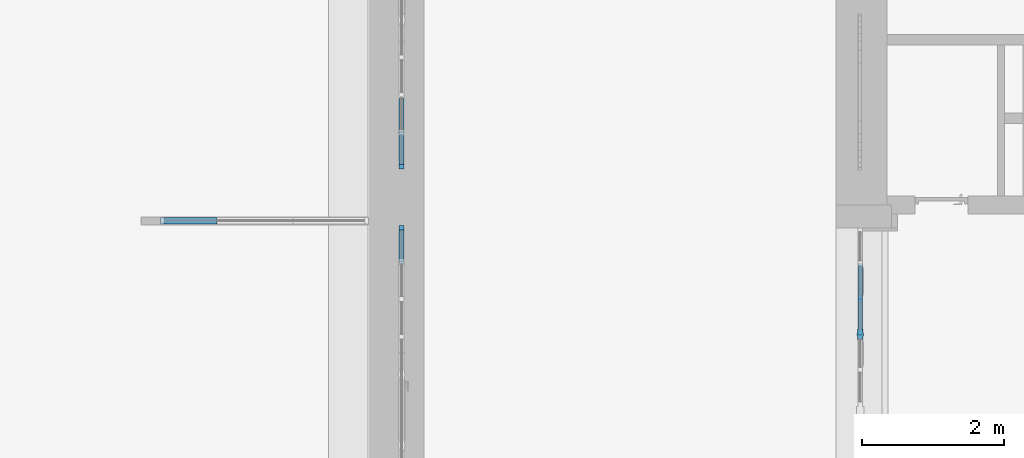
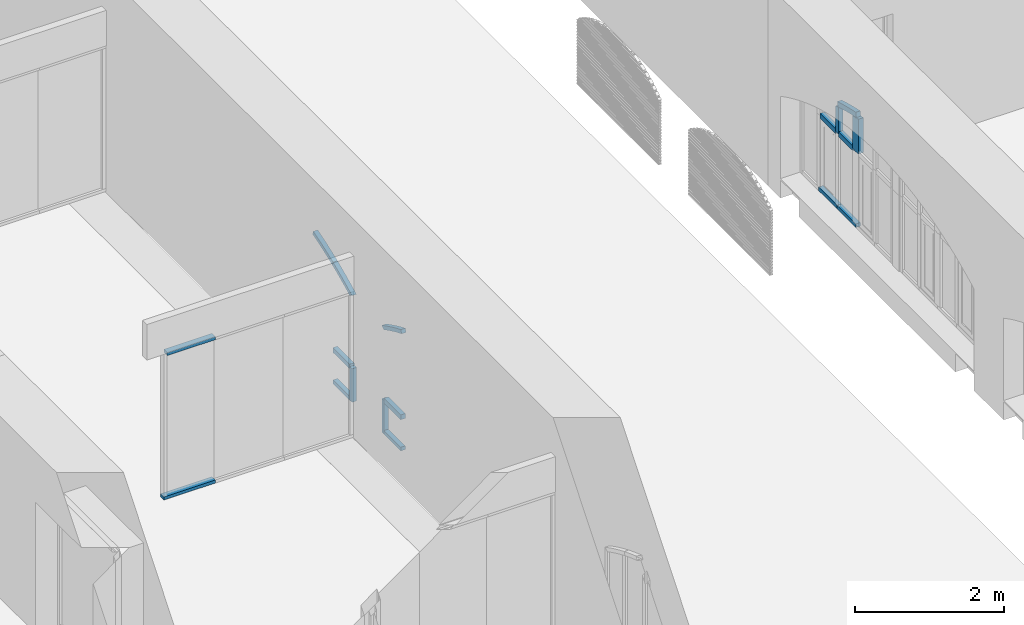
# One storey, part 31 of 88: 18 members, 4 elements without a shape of their own.
"""IFC2X3 building model written with IfcOpenShell, lengths in millimetres."""

from ifc_helpers import new_model, entity, si_unit, converted_unit, derived_unit, direction, frame, frame_2d, origin, place, context, subcontext, project, spatial, polyline, circle_curve, parameter, trimmed, segment, composite_curve, rectangle, outline, extrude, faceted_brep, source, transform, mapped, material, type_object, type_shapes, element, aggregate, save


model = new_model("IFC2X3")

# Units and contexts
model_context = context("Model", 3, precision=0.01, world=origin(), true_north=direction((6.123031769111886e-17, 1.0)))
body_context = subcontext(model_context, "Body", "Model", "MODEL_VIEW")
ifc_project = project(units=[si_unit("LENGTHUNIT", "METRE", prefix="MILLI"), si_unit("AREAUNIT", "SQUARE_METRE"), si_unit("VOLUMEUNIT", "CUBIC_METRE"), converted_unit("PLANEANGLEUNIT", "DEGREE", entity("IfcPlaneAngleMeasure", 0.017453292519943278), si_unit("PLANEANGLEUNIT", "RADIAN"), dimensions=[0, 0, 0, 0, 0, 0, 0]), si_unit("MASSUNIT", "GRAM", prefix="KILO"), derived_unit("MASSDENSITYUNIT", [(si_unit("MASSUNIT", "GRAM", prefix="KILO"), 1), (si_unit("LENGTHUNIT", "METRE"), -3)]), derived_unit("IONCONCENTRATIONUNIT", [(si_unit("MASSUNIT", "GRAM", prefix="KILO"), 1), (si_unit("LENGTHUNIT", "METRE"), -3)]), derived_unit("MOMENTOFINERTIAUNIT", [(si_unit("LENGTHUNIT", "METRE"), 4)]), si_unit("TIMEUNIT", "SECOND"), si_unit("FREQUENCYUNIT", "HERTZ"), si_unit("THERMODYNAMICTEMPERATUREUNIT", "DEGREE_CELSIUS"), derived_unit("THERMALTRANSMITTANCEUNIT", [(si_unit("MASSUNIT", "GRAM", prefix="KILO"), 1), (si_unit("THERMODYNAMICTEMPERATUREUNIT", "KELVIN"), -1), (si_unit("TIMEUNIT", "SECOND"), -3)]), derived_unit("THERMALCONDUCTANCEUNIT", [(si_unit("MASSUNIT", "GRAM", prefix="KILO"), 1), (si_unit("THERMODYNAMICTEMPERATUREUNIT", "KELVIN"), -1), (si_unit("TIMEUNIT", "SECOND"), -3), (si_unit("LENGTHUNIT", "METRE"), 1)]), derived_unit("VOLUMETRICFLOWRATEUNIT", [(si_unit("LENGTHUNIT", "METRE", prefix="DECI"), 3), (si_unit("TIMEUNIT", "SECOND"), -1)]), derived_unit("MASSFLOWRATEUNIT", [(si_unit("MASSUNIT", "GRAM", prefix="KILO"), 1), (si_unit("TIMEUNIT", "SECOND"), -1)]), derived_unit("ROTATIONALFREQUENCYUNIT", [(si_unit("TIMEUNIT", "SECOND"), -1)]), si_unit("ELECTRICCURRENTUNIT", "AMPERE"), si_unit("ELECTRICVOLTAGEUNIT", "VOLT"), si_unit("POWERUNIT", "WATT"), si_unit("FORCEUNIT", "NEWTON", prefix="KILO"), si_unit("ILLUMINANCEUNIT", "LUX"), si_unit("LUMINOUSFLUXUNIT", "LUMEN"), si_unit("LUMINOUSINTENSITYUNIT", "CANDELA"), si_unit("ENERGYUNIT", "JOULE"), derived_unit("USERDEFINED", [(si_unit("MASSUNIT", "GRAM", prefix="KILO"), -1), (si_unit("LENGTHUNIT", "METRE"), -2), (si_unit("TIMEUNIT", "SECOND"), 3), (si_unit("LUMINOUSFLUXUNIT", "LUMEN"), 1)]), derived_unit("USERDEFINED", [(si_unit("MASSUNIT", "GRAM", prefix="KILO"), 1), (si_unit("TIMEUNIT", "SECOND"), -3), (si_unit("LENGTHUNIT", "METRE"), 3), (si_unit("ELECTRICCURRENTUNIT", "AMPERE"), -2)]), derived_unit("SOUNDPOWERUNIT", [(si_unit("MASSUNIT", "GRAM", prefix="KILO"), 1), (si_unit("TIMEUNIT", "SECOND"), -3), (si_unit("LENGTHUNIT", "METRE"), 2)]), derived_unit("SOUNDPRESSUREUNIT", [(si_unit("MASSUNIT", "GRAM", prefix="KILO"), 1), (si_unit("LENGTHUNIT", "METRE"), -1), (si_unit("TIMEUNIT", "SECOND"), -2)]), derived_unit("LINEARVELOCITYUNIT", [(si_unit("LENGTHUNIT", "METRE"), 1), (si_unit("TIMEUNIT", "SECOND"), -1)]), si_unit("PRESSUREUNIT", "PASCAL"), derived_unit("USERDEFINED", [(si_unit("MASSUNIT", "GRAM", prefix="KILO"), 1), (si_unit("LENGTHUNIT", "METRE"), -2), (si_unit("TIMEUNIT", "SECOND"), -2)]), derived_unit("LINEARFORCEUNIT", [(si_unit("MASSUNIT", "GRAM", prefix="KILO"), 1), (si_unit("TIMEUNIT", "SECOND"), -2)]), derived_unit("PLANARFORCEUNIT", [(si_unit("MASSUNIT", "GRAM", prefix="KILO"), 1), (si_unit("LENGTHUNIT", "METRE"), -1), (si_unit("TIMEUNIT", "SECOND"), -2)]), derived_unit("SPECIFICHEATCAPACITYUNIT", [(si_unit("THERMODYNAMICTEMPERATUREUNIT", "KELVIN"), -1), (si_unit("LENGTHUNIT", "METRE"), 2), (si_unit("TIMEUNIT", "SECOND"), -2)]), derived_unit("HEATFLUXDENSITYUNIT", [(si_unit("MASSUNIT", "GRAM", prefix="KILO"), 1), (si_unit("TIMEUNIT", "SECOND"), -3)]), derived_unit("HEATINGVALUEUNIT", [(si_unit("LENGTHUNIT", "METRE"), 2), (si_unit("TIMEUNIT", "SECOND"), -2)]), derived_unit("VAPORPERMEABILITYUNIT", [(si_unit("LENGTHUNIT", "METRE"), -1), (si_unit("TIMEUNIT", "SECOND"), 1)]), derived_unit("DYNAMICVISCOSITYUNIT", [(si_unit("MASSUNIT", "GRAM", prefix="KILO"), 1), (si_unit("TIMEUNIT", "SECOND"), -1), (si_unit("LENGTHUNIT", "METRE"), -1)]), derived_unit("THERMALEXPANSIONCOEFFICIENTUNIT", [(si_unit("THERMODYNAMICTEMPERATUREUNIT", "KELVIN"), -1)]), derived_unit("MODULUSOFELASTICITYUNIT", [(si_unit("MASSUNIT", "GRAM", prefix="KILO"), 1), (si_unit("LENGTHUNIT", "METRE"), -1), (si_unit("TIMEUNIT", "SECOND"), -2)]), derived_unit("ISOTHERMALMOISTURECAPACITYUNIT", [(si_unit("MASSUNIT", "GRAM", prefix="KILO"), -1), (si_unit("LENGTHUNIT", "METRE"), 3)]), derived_unit("MOISTUREDIFFUSIVITYUNIT", [(si_unit("TIMEUNIT", "SECOND"), -1), (si_unit("LENGTHUNIT", "METRE"), 2)]), derived_unit("MASSPERLENGTHUNIT", [(si_unit("MASSUNIT", "GRAM", prefix="KILO"), 1), (si_unit("LENGTHUNIT", "METRE"), -1)]), derived_unit("THERMALRESISTANCEUNIT", [(si_unit("MASSUNIT", "GRAM", prefix="KILO"), -1), (si_unit("TIMEUNIT", "SECOND"), 3), (si_unit("THERMODYNAMICTEMPERATUREUNIT", "KELVIN"), 1)]), derived_unit("ACCELERATIONUNIT", [(si_unit("LENGTHUNIT", "METRE"), 1), (si_unit("TIMEUNIT", "SECOND"), -2)]), derived_unit("ANGULARVELOCITYUNIT", [(si_unit("TIMEUNIT", "SECOND"), -1), (si_unit("PLANEANGLEUNIT", "RADIAN"), 1)]), derived_unit("LINEARSTIFFNESSUNIT", [(si_unit("MASSUNIT", "GRAM", prefix="KILO"), 1), (si_unit("TIMEUNIT", "SECOND"), -2)]), derived_unit("WARPINGCONSTANTUNIT", [(si_unit("LENGTHUNIT", "METRE"), 6)]), derived_unit("LINEARMOMENTUNIT", [(si_unit("MASSUNIT", "GRAM", prefix="KILO"), 1), (si_unit("LENGTHUNIT", "METRE"), 1), (si_unit("TIMEUNIT", "SECOND"), -2)]), derived_unit("TORQUEUNIT", [(si_unit("MASSUNIT", "GRAM", prefix="KILO"), 1), (si_unit("LENGTHUNIT", "METRE"), 2), (si_unit("TIMEUNIT", "SECOND"), -2)])], contexts=[model_context])

# Site, building, storey
site_placement = place(None, origin())
site = spatial("IfcSite", under=ifc_project, at=site_placement, Name="Default", CompositionType="ELEMENT")
building_placement = place(site_placement, origin())
building = spatial("IfcBuilding", under=site, at=building_placement, Name="Eesti Rahvusraamatukogu hoone renoveerimise projekteerimistööd", CompositionType="ELEMENT")
storey_placement = place(building_placement, origin())
storey = spatial("IfcBuildingStorey", under=building, at=storey_placement, Name="1. korrus", CompositionType="ELEMENT", Elevation=0.0)

# Curtain wall, members
curtain_wall_type_1 = type_object("IfcCurtainWallType", Name="Curtain Wall:VLS Klaasvahesein profiilita 38db", PredefinedType="NOTDEFINED")
curtain_wall_1_placement = place(storey_placement, origin())
curtain_wall_1 = element("IfcCurtainWall", 1, at=curtain_wall_1_placement, inside=storey, type_object=curtain_wall_type_1, Name="Curtain Wall:VLS Klaasvahesein profiilita 38db", ObjectType="Curtain Wall:VLS Klaasvahesein profiilita 38db")
ifc_material_1 = material(Name="Aluminum")
member_type_1 = type_object("IfcMemberType", Name="Rectangular Mullion:50mm x 92mm", PredefinedType="MULLION", material=ifc_material_1)
shared_shape_1 = source(origin(), body_context, "Body", "SweptSolid", [
    extrude(rectangle(XDim=50.0, YDim=92.0, at=frame_2d((0.0, 3.552713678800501e-15), x_axis=(1.0, 0.0))), frame((-25.0, 0.0, -745.0000001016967), z_axis=(0.0, 0.0, 1.0), x_axis=(-1.0, 0.0, 0.0)), (0.0, 0.0, 1.0), 745.0000001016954),
])
type_shapes(member_type_1, [shared_shape_1])
member_1_placement = place(curtain_wall_1_placement, frame((-46255.0, 24092.0, 2400.0), z_axis=(-1.0, 0.0, 0.0), x_axis=(0.0, 0.0, 1.0)))
member_1 = element("IfcMember", 2, at=member_1_placement, type_object=member_type_1, material=ifc_material_1, Name="Rectangular Mullion:50mm x 92mm", ObjectType="Rectangular Mullion:50mm x 92mm", context=body_context, shape_type="MappedRepresentation", body=[
    mapped(shared_shape_1, transform((0.0, 0.0, 0.0), scale=1.0)),
])
member_type_2 = type_object("IfcMemberType", Name="Rectangular Mullion:50mm x 92mm", PredefinedType="MULLION", material=ifc_material_1)
shared_shape_2 = source(origin(), body_context, "Body", "SweptSolid", [
    extrude(rectangle(XDim=50.0, YDim=92.0, at=frame_2d((0.0, 3.552713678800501e-15), x_axis=(1.0, 0.0))), frame((-25.0, 0.0, -795.0000001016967), z_axis=(0.0, 0.0, 1.0), x_axis=(-1.0, 0.0, 0.0)), (0.0, 0.0, 1.0), 795.0000001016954),
])
type_shapes(member_type_2, [shared_shape_2])
member_2_placement = place(curtain_wall_1_placement, frame((-45509.99999989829, 24092.0, 0.0), z_axis=(1.0, 0.0, 0.0), x_axis=(0.0, 0.0, -1.0)))
member_2 = element("IfcMember", 3, at=member_2_placement, type_object=member_type_2, material=ifc_material_1, Name="Rectangular Mullion:50mm x 92mm", ObjectType="Rectangular Mullion:50mm x 92mm", context=body_context, shape_type="MappedRepresentation", body=[
    mapped(shared_shape_2, transform((0.0, 0.0, 0.0), scale=1.0)),
])
aggregate(curtain_wall_1, [member_1, member_2])

curtain_wall_type_2 = type_object("IfcCurtainWallType", Name="Curtain Wall:Ak-02", PredefinedType="NOTDEFINED")
curtain_wall_2_placement = place(storey_placement, origin())
curtain_wall_2 = element("IfcCurtainWall", 4, at=curtain_wall_2_placement, inside=storey, type_object=curtain_wall_type_2, Name="Curtain Wall:Ak-02", ObjectType="Curtain Wall:Ak-02")
ifc_material_2 = material(Name="LUMION_dark steel window frames")
member_type_3 = type_object("IfcMemberType", Name="Rectangular Mullion:NEW 80x70mm", PredefinedType="MULLION", material=ifc_material_2)
shared_shape_3 = source(origin(), body_context, "Body", "SweptSolid", [
    extrude(outline(composite_curve([segment(polyline([(-51.955427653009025, -255.69780513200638), (28.04457234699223, -255.69780513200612)]), True, "CONTINUOUS"), segment(trimmed(circle_curve(frame_2d((5468.760252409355, -255.69780513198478), x_axis=(-0.9956372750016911, 0.09330818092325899)), 5440.715680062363), [parameter(3.5622212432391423e-13)], [parameter(5.353953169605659)], True, "PARAMETER"), False, "CONTINUOUS"), segment(polyline([(51.78091865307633, 251.96547789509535), (-27.870063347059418, 259.4301323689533)]), True, "CONTINUOUS"), segment(trimmed(circle_curve(frame_2d((5468.760252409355, -255.69780513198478), x_axis=(-0.9956372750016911, 0.09330818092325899)), 5520.715680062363), [parameter(3.5622212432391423e-13)], [parameter(5.353953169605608)], True, "PARAMETER"), True, "CONTINUOUS")], self_intersect=False)), frame((-51.95542765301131, -35.0, -255.69780513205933), z_axis=(0.0, 1.0, 0.0), x_axis=(-0.9956372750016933, 0.0, 0.09330818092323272)), (0.0, 0.0, 1.0), 70.00000000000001),
])
type_shapes(member_type_3, [shared_shape_3])
member_3_placement = place(curtain_wall_2_placement, frame((-36440.0, 22490.0, 3859.874732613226), z_axis=(0.0, -0.9799487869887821, 0.19924952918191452), x_axis=(0.0, 0.19924952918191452, 0.9799487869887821)))
member_3 = element("IfcMember", 5, at=member_3_placement, type_object=member_type_3, material=ifc_material_2, Name="Rectangular Mullion:NEW 80x70mm", ObjectType="Rectangular Mullion:NEW 80x70mm", context=body_context, shape_type="MappedRepresentation", body=[
    mapped(shared_shape_3, transform((0.0, 0.0, 0.0), scale=1.0)),
])
member_type_4 = type_object("IfcMemberType", Name="Rectangular Mullion:NEW 80x70mm", PredefinedType="MULLION", material=ifc_material_2)
shared_shape_4 = source(origin(), body_context, "Body", "SweptSolid", [
    extrude(outline(composite_curve([segment(polyline([(-259.34177632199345, -35.36292004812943), (182.78706183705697, -35.36292004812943)]), True, "CONTINUOUS"), segment(trimmed(circle_curve(frame_2d((-5029.485677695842, -1595.3629200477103), x_axis=(0.9799487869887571, 0.19924952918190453)), 5440.715680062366), [parameter(5.169029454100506)], [parameter(5.353953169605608)], True, "PARAMETER"), True, "CONTINUOUS"), segment(trimmed(circle_curve(frame_2d((-5029.48567769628, -1595.362920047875), x_axis=(0.9570819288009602, 0.2898174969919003)), 5440.715680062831), [parameter(0.0)], [parameter(0.6965383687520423)], True, "PARAMETER"), True, "CONTINUOUS"), segment(polyline([(158.17151137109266, 44.63707995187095), (-259.34177632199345, 44.63707995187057)]), True, "CONTINUOUS"), segment(polyline([(-259.34177632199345, 44.63707995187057), (-259.34177632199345, -35.36292004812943)]), True, "CONTINUOUS")], self_intersect=False)), frame((4.637079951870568, -35.0, -259.34177632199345), z_axis=(0.0, 1.0, 0.0), x_axis=(0.0, 0.0, -1.0)), (0.0, 0.0, 1.0), 70.00000000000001),
])
type_shapes(member_type_4, [shared_shape_4])
member_4_placement = place(curtain_wall_2_placement, frame((-36440.0, 22990.0, 3220.0), z_axis=(0.0, 0.0, -1.0), x_axis=(0.0, -1.0, 0.0)))
member_4 = element("IfcMember", 6, at=member_4_placement, type_object=member_type_4, material=ifc_material_2, Name="Rectangular Mullion:NEW 80x70mm", ObjectType="Rectangular Mullion:NEW 80x70mm", context=body_context, shape_type="MappedRepresentation", body=[
    mapped(shared_shape_4, transform((0.0, 0.0, 0.0), scale=1.0)),
])
member_type_5 = type_object("IfcMemberType", Name="Rectangular Mullion:NEW 150x90mm", PredefinedType="MULLION", material=ifc_material_2)
shared_shape_5 = source(origin(), body_context, "Body", "Brep", [
    faceted_brep([(-20.0, -40.0, 0.0), (-20.0, -45.0, 0.0), (20.0, -45.0, 0.0), (20.0, -40.0, 0.0), (75.0, -40.0, 0.0), (75.0, 40.0, 0.0), (20.0, 40.0, 0.0), (20.0, 45.0, 0.0), (-20.0, 45.0, 0.0), (-20.0, 40.0, 0.0), (-75.0, 40.0, 0.0), (-75.0, -40.0, 0.0), (-20.0, 40.0, -554.0449674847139), (-47.51534075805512, 40.0, -548.1824945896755), (-75.0, 40.0, -542.1778237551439), (75.0, 40.0, -573.1474168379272), (47.48603249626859, 40.0, -567.7959127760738), (20.0, 40.0, -562.3027332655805), (-75.0, -40.0, -542.1778237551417), (-47.515340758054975, -40.0, -548.1824945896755), (-20.0, -40.0, -554.0449674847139), (20.0, -40.0, -562.30273326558), (47.48603249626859, -40.0, -567.7959127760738), (75.0, -40.0, -573.1474168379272), (-20.0, -45.0, -554.0449674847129), (-20.0, 45.0, -554.0449674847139), (-2.036281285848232, -45.0, -557.7922042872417), (15.939962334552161, -45.0, -561.4788296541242), (17.969902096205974, -45.0, -561.8911677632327), (20.0, -45.0, -562.3027332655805), (20.0, 45.0, -562.30273326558), (17.969902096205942, 45.0, -561.8911677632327), (15.939962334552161, 45.0, -561.4788296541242), (-2.036281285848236, 45.0, -557.7922042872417), (15.939962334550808, 33.74999999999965, -561.4788296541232), (15.939962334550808, 22.499999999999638, -561.4788296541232), (15.939962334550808, 0.0, -561.4788296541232), (15.939962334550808, -22.500000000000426, -561.4788296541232), (15.939962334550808, -33.75000000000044, -561.4788296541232)], [[[0, 1, 2, 3, 4, 5, 6, 7, 8, 9, 10, 11]], [[10, 9, 12, 13, 14]], [[6, 5, 15, 16, 17]], [[11, 10, 14, 18]], [[0, 11, 18, 19, 20]], [[4, 3, 21, 22, 23]], [[1, 0, 20, 24]], [[9, 8, 25, 12]], [[1, 24, 26, 27, 28, 29, 2]], [[3, 2, 29, 21]], [[7, 6, 17, 30]], [[5, 4, 23, 15]], [[7, 30, 31, 32, 33, 25, 8]], [[26, 33, 32, 34, 35, 36, 37, 38, 27]], [[20, 12, 25, 33, 26, 24]], [[20, 19, 13, 12]], [[19, 18, 14, 13]], [[15, 23, 22, 16]], [[17, 35, 34, 32]], [[21, 27, 38, 37]], [[16, 35, 17]], [[21, 37, 22]], [[36, 35, 16, 22, 37]], [[27, 21, 28]], [[31, 30, 17]], [[28, 21, 29]], [[17, 32, 31]]]),
])
type_shapes(member_type_5, [shared_shape_5])
member_5_placement = place(curtain_wall_2_placement, frame((-36440.0, 22490.0, 3220.0), z_axis=(0.0, 0.0, -1.0), x_axis=(0.0, -1.0, 0.0)))
member_5 = element("IfcMember", 7, at=member_5_placement, type_object=member_type_5, material=ifc_material_2, Name="Rectangular Mullion:NEW 150x90mm", ObjectType="Rectangular Mullion:NEW 150x90mm", context=body_context, shape_type="MappedRepresentation", body=[
    mapped(shared_shape_5, transform((0.0, 0.0, 0.0), scale=1.0)),
])
member_type_6 = type_object("IfcMemberType", Name="Rectangular Mullion:NEW 80x70mm", PredefinedType="MULLION", material=ifc_material_2)
shared_shape_6 = source(origin(), body_context, "Body", "SweptSolid", [
    extrude(rectangle(XDim=80.0, YDim=70.0, at=frame_2d((0.0, -3.552713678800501e-15), x_axis=(1.0, 0.0))), frame((0.0, 0.0, -420.0), z_axis=(0.0, 0.0, 1.0), x_axis=(-1.0, 0.0, 0.0)), (0.0, 0.0, 1.0), 419.999999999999),
])
type_shapes(member_type_6, [shared_shape_6])
member_6_placement = place(curtain_wall_2_placement, frame((-36440.0, 23030.0, 3220.0), z_axis=(0.0, -1.0, 0.0), x_axis=(0.0, 0.0, 1.0)))
member_6 = element("IfcMember", 8, at=member_6_placement, type_object=member_type_6, material=ifc_material_2, Name="Rectangular Mullion:NEW 80x70mm", ObjectType="Rectangular Mullion:NEW 80x70mm", context=body_context, shape_type="MappedRepresentation", body=[
    mapped(shared_shape_6, transform((0.0, 0.0, 0.0), scale=1.0)),
])
member_type_7 = type_object("IfcMemberType", Name="Rectangular Mullion:NEW 80x70mm", PredefinedType="MULLION", material=ifc_material_2)
shared_shape_7 = source(origin(), body_context, "Body", "SweptSolid", [
    extrude(rectangle(XDim=80.0, YDim=70.0, at=frame_2d((0.0, -3.552713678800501e-15), x_axis=(1.0, 0.0))), frame((0.0, 0.0, -385.0), z_axis=(0.0, 0.0, 1.0), x_axis=(-1.0, 0.0, 0.0)), (0.0, 0.0, 1.0), 384.99999999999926),
])
type_shapes(member_type_7, [shared_shape_7])
member_7_placement = place(curtain_wall_2_placement, frame((-36440.0, 22565.0, 3220.0), z_axis=(0.0, -1.0, 0.0), x_axis=(0.0, 0.0, 1.0)))
member_7 = element("IfcMember", 9, at=member_7_placement, type_object=member_type_7, material=ifc_material_2, Name="Rectangular Mullion:NEW 80x70mm", ObjectType="Rectangular Mullion:NEW 80x70mm", context=body_context, shape_type="MappedRepresentation", body=[
    mapped(shared_shape_7, transform((0.0, 0.0, 0.0), scale=1.0)),
])
member_type_8 = type_object("IfcMemberType", Name="Rectangular Mullion:NEW 60x70mm", PredefinedType="MULLION", material=ifc_material_2)
shared_shape_8 = source(origin(), body_context, "Body", "SweptSolid", [
    extrude(rectangle(XDim=60.0, YDim=70.0, at=frame_2d((0.0, 3.552713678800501e-15), x_axis=(1.0, 0.0))), frame((-30.0, 0.0, -500.0), z_axis=(0.0, 0.0, 1.0), x_axis=(-1.0, 0.0, 0.0)), (0.0, 0.0, 1.0), 499.999999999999),
])
type_shapes(member_type_8, [shared_shape_8])
member_8_placement = place(curtain_wall_2_placement, frame((-36440.0, 23490.0, 1970.0), z_axis=(0.0, 1.0, 0.0), x_axis=(0.0, 0.0, -1.0)))
member_8 = element("IfcMember", 10, at=member_8_placement, type_object=member_type_8, material=ifc_material_2, Name="Rectangular Mullion:NEW 60x70mm", ObjectType="Rectangular Mullion:NEW 60x70mm", context=body_context, shape_type="MappedRepresentation", body=[
    mapped(shared_shape_8, transform((0.0, 0.0, 0.0), scale=1.0)),
])
member_9_placement = place(curtain_wall_2_placement, frame((-36440.0, 22990.0, 1970.0), z_axis=(0.0, 1.0, 0.0), x_axis=(0.0, 0.0, -1.0)))
member_9 = element("IfcMember", 11, at=member_9_placement, type_object=member_type_8, material=ifc_material_2, Name="Rectangular Mullion:NEW 60x70mm", ObjectType="Rectangular Mullion:NEW 60x70mm", context=body_context, shape_type="MappedRepresentation", body=[
    mapped(shared_shape_8, transform((0.0, 0.0, 0.0), scale=1.0)),
])
aggregate(curtain_wall_2, [member_3, member_4, member_5, member_6, member_7, member_8, member_9])

# Curtain wall, member
curtain_wall_type_3 = type_object("IfcCurtainWallType", Name="Curtain Wall:Ak-05", PredefinedType="NOTDEFINED")
curtain_wall_3_placement = place(storey_placement, origin())
curtain_wall_3 = element("IfcCurtainWall", 12, at=curtain_wall_3_placement, inside=storey, type_object=curtain_wall_type_3, Name="Curtain Wall:Ak-05", ObjectType="Curtain Wall:Ak-05")
member_type_9 = type_object("IfcMemberType", Name="Rectangular Mullion:NEW 60x70mm", PredefinedType="MULLION", material=ifc_material_2)
shared_shape_9 = source(origin(), body_context, "Body", "SweptSolid", [
    extrude(outline(composite_curve([segment(polyline([(-44.19959331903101, -278.92780712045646), (15.800406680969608, -278.9278071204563)]), True, "CONTINUOUS"), segment(trimmed(circle_curve(frame_2d((5479.080973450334, -278.9278071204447), x_axis=(-0.9948301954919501, 0.10155236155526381)), 5463.280566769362), [parameter(3.5622212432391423e-13)], [parameter(5.828569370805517)], True, "PARAMETER"), False, "CONTINUOUS"), segment(polyline([(44.04449918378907, 275.8812362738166), (-15.645312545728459, 281.97437796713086)]), True, "CONTINUOUS"), segment(trimmed(circle_curve(frame_2d((5479.080973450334, -278.9278071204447), x_axis=(-0.9948301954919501, 0.10155236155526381)), 5523.280566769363), [parameter(3.5622212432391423e-13)], [parameter(5.828569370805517)], True, "PARAMETER"), True, "CONTINUOUS")], self_intersect=False)), frame((-44.19959331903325, -35.0, -278.9278071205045), z_axis=(0.0, 1.0, 0.0), x_axis=(-0.9948301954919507, 0.0, 0.10155236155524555)), (0.0, 0.0, 1.0), 69.99999999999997),
])
type_shapes(member_type_9, [shared_shape_9])
member_10_placement = place(curtain_wall_3_placement, frame((-42905.0, 25335.0, 1939.3047106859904), z_axis=(0.0, -0.9256428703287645, -0.3783983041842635), x_axis=(0.0, -0.3783983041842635, 0.9256428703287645)))
member_10 = element("IfcMember", 13, at=member_10_placement, type_object=member_type_9, material=ifc_material_2, Name="Rectangular Mullion:NEW 60x70mm", ObjectType="Rectangular Mullion:NEW 60x70mm", context=body_context, shape_type="MappedRepresentation", body=[
    mapped(shared_shape_9, transform((0.0, 0.0, 0.0), scale=1.0)),
])

curtain_wall_4_placement = place(storey_placement, origin())
curtain_wall_4 = element("IfcCurtainWall", 14, at=curtain_wall_4_placement, inside=storey, type_object=curtain_wall_type_3, Name="Curtain Wall:Ak-05", ObjectType="Curtain Wall:Ak-05")
member_type_10 = type_object("IfcMemberType", Name="Rectangular Mullion:NEW 60x70mm", PredefinedType="MULLION", material=ifc_material_2)
shared_shape_10 = source(origin(), body_context, "Body", "SweptSolid", [
    extrude(outline(composite_curve([segment(trimmed(circle_curve(frame_2d((4549.812785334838, 3066.2072493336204), x_axis=(-0.8006634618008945, -0.5991143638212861)), 5523.280566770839), [parameter(354.15250498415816)], [parameter(359.99999999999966)], True, "PARAMETER"), True, "CONTINUOUS"), segment(polyline([(127.52384624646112, -242.86947363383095), (175.56365395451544, -206.92261180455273)]), True, "CONTINUOUS"), segment(trimmed(circle_curve(frame_2d((4549.812785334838, 3066.2072493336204), x_axis=(-0.8006634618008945, -0.5991143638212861)), 5463.280566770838), [parameter(354.53073311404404)], [parameter(359.99999999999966)], True, "PARAMETER"), False, "CONTINUOUS"), segment(polyline([(-116.49037438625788, 224.89604271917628), (-186.59712581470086, 224.89604271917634)]), True, "CONTINUOUS")], self_intersect=False)), frame((-43.402905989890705, -35.0, -270.85808154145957), z_axis=(0.0, -1.0, 0.0), x_axis=(-0.800663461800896, 0.0, 0.5991143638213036)), (0.0, 0.0, -1.0), 69.99999999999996),
])
type_shapes(member_type_10, [shared_shape_10])
member_11_placement = place(curtain_wall_4_placement, frame((-42905.0, 23515.0, 1939.3047106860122), z_axis=(0.0, -0.9256428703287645, 0.3783983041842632), x_axis=(0.0, 0.3783983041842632, 0.9256428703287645)))
member_11 = element("IfcMember", 15, at=member_11_placement, type_object=member_type_10, material=ifc_material_2, Name="Rectangular Mullion:NEW 60x70mm", ObjectType="Rectangular Mullion:NEW 60x70mm", context=body_context, shape_type="MappedRepresentation", body=[
    mapped(shared_shape_10, transform((0.0, 0.0, 0.0), scale=1.0)),
])

# Member
member_type_11 = type_object("IfcMemberType", Name="Rectangular Mullion:NEW 60x70mm", PredefinedType="MULLION", material=ifc_material_2)
shared_shape_11 = source(origin(), body_context, "Body", "SweptSolid", [
    extrude(outline(composite_curve([segment(polyline([(-43.402905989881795, -270.8580815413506), (16.59709401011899, -270.85808154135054)]), True, "CONTINUOUS"), segment(trimmed(circle_curve(frame_2d((5479.877660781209, -270.8580815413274), x_axis=(-0.9947965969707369, 0.10188096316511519)), 5463.280566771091), [parameter(0.37822812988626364)], [parameter(5.847495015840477)], True, "PARAMETER"), False, "CONTINUOUS"), segment(polyline([(41.46886313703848, 249.85710065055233), (-14.66305115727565, 291.85906243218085)]), True, "CONTINUOUS"), segment(trimmed(circle_curve(frame_2d((5479.877660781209, -270.8580815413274), x_axis=(-0.9947965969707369, 0.10188096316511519)), 5523.280566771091), [parameter(3.5622212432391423e-13)], [parameter(5.847495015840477)], True, "PARAMETER"), True, "CONTINUOUS")], self_intersect=False)), frame((-44.32163578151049, -35.0, -288.84651632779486), z_axis=(0.0, 1.0, 0.0), x_axis=(-0.9947965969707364, 0.0, 0.10188096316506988)), (0.0, 0.0, 1.0), 69.99999999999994),
])
type_shapes(member_type_11, [shared_shape_11])
member_12_placement = place(curtain_wall_3_placement, frame((-42905.0, 24825.0, 1699.7706559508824), z_axis=(0.0, -0.8822747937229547, -0.4707347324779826), x_axis=(0.0, -0.4707347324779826, 0.8822747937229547)))
member_12 = element("IfcMember", 16, at=member_12_placement, type_object=member_type_11, material=ifc_material_2, Name="Rectangular Mullion:NEW 60x70mm", ObjectType="Rectangular Mullion:NEW 60x70mm", context=body_context, shape_type="MappedRepresentation", body=[
    mapped(shared_shape_11, transform((0.0, 0.0, 0.0), scale=1.0)),
])

member_type_12 = type_object("IfcMemberType", Name="Rectangular Mullion:NEW 80x70mm", PredefinedType="MULLION", material=ifc_material_2)
shared_shape_12 = source(origin(), body_context, "Body", "SweptSolid", [
    extrude(rectangle(XDim=80.0, YDim=70.0, at=frame_2d((0.0, -3.552713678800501e-15), x_axis=(1.0, 0.0))), frame((0.0, 0.0, -450.0), z_axis=(0.0, 0.0, 1.0), x_axis=(-1.0, 0.0, 0.0)), (0.0, 0.0, 1.0), 449.9999999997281),
])
type_shapes(member_type_12, [shared_shape_12])
member_13_placement = place(curtain_wall_3_placement, frame((-42905.0, 24885.0, 500.0), z_axis=(0.0, -1.0, 0.0), x_axis=(0.0, 0.0, 1.0)))
member_13 = element("IfcMember", 17, at=member_13_placement, type_object=member_type_12, material=ifc_material_2, Name="Rectangular Mullion:NEW 80x70mm", ObjectType="Rectangular Mullion:NEW 80x70mm", context=body_context, shape_type="MappedRepresentation", body=[
    mapped(shared_shape_12, transform((0.0, 0.0, 0.0), scale=1.0)),
])

member_type_13 = type_object("IfcMemberType", Name="Rectangular Mullion:NEW 80x70mm", PredefinedType="MULLION", material=ifc_material_2)
shared_shape_13 = source(origin(), body_context, "Body", "SweptSolid", [
    extrude(rectangle(XDim=80.0, YDim=70.0, at=frame_2d((0.0, -3.552713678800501e-15), x_axis=(1.0, 0.0))), frame((0.0, 0.0, -450.0), z_axis=(0.0, 0.0, 1.0), x_axis=(-1.0, 0.0, 0.0)), (0.0, 0.0, 1.0), 449.9999999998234),
])
type_shapes(member_type_13, [shared_shape_13])
member_14_placement = place(curtain_wall_4_placement, frame((-42905.0, 23515.0, 500.0), z_axis=(0.0, -1.0, 0.0), x_axis=(0.0, 0.0, 1.0)))
member_14 = element("IfcMember", 18, at=member_14_placement, type_object=member_type_13, material=ifc_material_2, Name="Rectangular Mullion:NEW 80x70mm", ObjectType="Rectangular Mullion:NEW 80x70mm", context=body_context, shape_type="MappedRepresentation", body=[
    mapped(shared_shape_13, transform((0.0, 0.0, 0.0), scale=1.0)),
])

member_type_14 = type_object("IfcMemberType", Name="Rectangular Mullion:NEW 60x70mm", PredefinedType="MULLION", material=ifc_material_2)
shared_shape_14 = source(origin(), body_context, "Body", "SweptSolid", [
    extrude(rectangle(XDim=60.0, YDim=70.0, at=frame_2d((0.0, 3.552713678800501e-15), x_axis=(1.0, 0.0))), frame((-30.0, 0.0, -550.0), z_axis=(0.0, 0.0, 1.0), x_axis=(-1.0, 0.0, 0.0)), (0.0, 0.0, 1.0), 550.0000000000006),
])
type_shapes(member_type_14, [shared_shape_14])
member_15_placement = place(curtain_wall_3_placement, frame((-42905.0, 24825.0, -50.0), z_axis=(0.0, 0.0, -1.0), x_axis=(0.0, -1.0, 0.0)))
member_15 = element("IfcMember", 19, at=member_15_placement, type_object=member_type_14, material=ifc_material_2, Name="Rectangular Mullion:NEW 60x70mm", ObjectType="Rectangular Mullion:NEW 60x70mm", context=body_context, shape_type="MappedRepresentation", body=[
    mapped(shared_shape_14, transform((0.0, 0.0, 0.0), scale=1.0)),
])

member_type_15 = type_object("IfcMemberType", Name="Rectangular Mullion:NEW 60x70mm", PredefinedType="MULLION", material=ifc_material_2)
shared_shape_15 = source(origin(), body_context, "Body", "SweptSolid", [
    extrude(rectangle(XDim=60.0, YDim=70.0, at=frame_2d((0.0, 3.552713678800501e-15), x_axis=(1.0, 0.0))), frame((-30.0, 0.0, -550.0), z_axis=(0.0, 0.0, 1.0), x_axis=(-1.0, 0.0, 0.0)), (0.0, 0.0, 1.0), 550.0000000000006),
])
type_shapes(member_type_15, [shared_shape_15])
member_16_placement = place(curtain_wall_4_placement, frame((-42905.0, 24025.0, 500.0), z_axis=(0.0, 0.0, 1.0), x_axis=(0.0, 1.0, 0.0)))
member_16 = element("IfcMember", 20, at=member_16_placement, type_object=member_type_15, material=ifc_material_2, Name="Rectangular Mullion:NEW 60x70mm", ObjectType="Rectangular Mullion:NEW 60x70mm", context=body_context, shape_type="MappedRepresentation", body=[
    mapped(shared_shape_15, transform((0.0, 0.0, 0.0), scale=1.0)),
])

member_type_16 = type_object("IfcMemberType", Name="Rectangular Mullion:NEW 60x70mm", PredefinedType="MULLION", material=ifc_material_2)
shared_shape_16 = source(origin(), body_context, "Body", "SweptSolid", [
    extrude(rectangle(XDim=60.0, YDim=70.0, at=frame_2d((0.0, 3.552713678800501e-15), x_axis=(1.0, 0.0))), frame((-30.0, 0.0, -450.0), z_axis=(0.0, 0.0, 1.0), x_axis=(-1.0, 0.0, 0.0)), (0.0, 0.0, 1.0), 449.9999999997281),
])
type_shapes(member_type_16, [shared_shape_16])
member_17_placement = place(curtain_wall_3_placement, frame((-42905.0, 25335.0, -50.0), z_axis=(0.0, 1.0, 0.0), x_axis=(0.0, 0.0, -1.0)))
member_17 = element("IfcMember", 21, at=member_17_placement, type_object=member_type_16, material=ifc_material_2, Name="Rectangular Mullion:NEW 60x70mm", ObjectType="Rectangular Mullion:NEW 60x70mm", context=body_context, shape_type="MappedRepresentation", body=[
    mapped(shared_shape_16, transform((0.0, 0.0, 0.0), scale=1.0)),
])

aggregate(curtain_wall_3, [member_10, member_12, member_13, member_15, member_17])

member_type_17 = type_object("IfcMemberType", Name="Rectangular Mullion:NEW 60x70mm", PredefinedType="MULLION", material=ifc_material_2)
shared_shape_17 = source(origin(), body_context, "Body", "SweptSolid", [
    extrude(rectangle(XDim=60.0, YDim=70.0, at=frame_2d((0.0, 3.552713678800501e-15), x_axis=(1.0, 0.0))), frame((-30.0, 0.0, -450.0), z_axis=(0.0, 0.0, 1.0), x_axis=(-1.0, 0.0, 0.0)), (0.0, 0.0, 1.0), 449.9999999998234),
])
type_shapes(member_type_17, [shared_shape_17])
member_18_placement = place(curtain_wall_4_placement, frame((-42905.0, 23965.0, -50.0), z_axis=(0.0, 1.0, 0.0), x_axis=(0.0, 0.0, -1.0)))
member_18 = element("IfcMember", 22, at=member_18_placement, type_object=member_type_17, material=ifc_material_2, Name="Rectangular Mullion:NEW 60x70mm", ObjectType="Rectangular Mullion:NEW 60x70mm", context=body_context, shape_type="MappedRepresentation", body=[
    mapped(shared_shape_17, transform((0.0, 0.0, 0.0), scale=1.0)),
])

aggregate(curtain_wall_4, [member_11, member_14, member_16, member_18])

save(model, "model.ifc")
